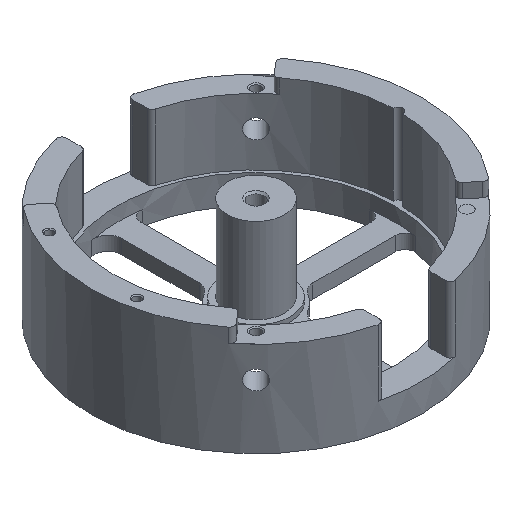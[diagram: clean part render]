
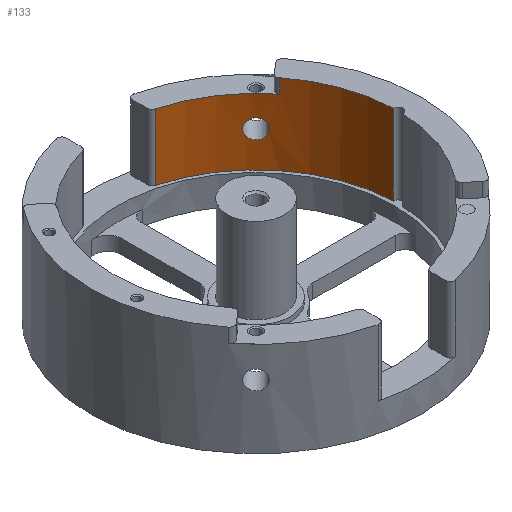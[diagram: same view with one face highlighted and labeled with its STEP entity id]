
A CAD part, isometric view. The second image highlights one B-rep face of the part: STEP entity #133.
In plain terms, the highlighted cylindrical face has radius 30 mm (diameter 60 mm), a partial arc.
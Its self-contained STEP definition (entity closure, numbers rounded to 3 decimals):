
#133=ADVANCED_FACE('',(#599,#600),#225,.F.);
#225=CYLINDRICAL_SURFACE('',#1678,30.);
#278=LINE('',#2489,#376);
#279=LINE('',#2493,#377);
#280=LINE('',#2497,#378);
#376=VECTOR('',#1896,1.);
#377=VECTOR('',#1899,1.);
#378=VECTOR('',#1902,1.);
#474=CIRCLE('',#1675,30.);
#475=CIRCLE('',#1676,30.);
#476=CIRCLE('',#1677,30.);
#599=FACE_BOUND('',#681,.T.);
#600=FACE_BOUND('',#682,.T.);
#681=EDGE_LOOP('',(#813));
#682=EDGE_LOOP('',(#814,#815,#816,#817,#818,#819));
#813=ORIENTED_EDGE('',*,*,#1439,.T.);
#814=ORIENTED_EDGE('',*,*,#1440,.T.);
#815=ORIENTED_EDGE('',*,*,#1441,.T.);
#816=ORIENTED_EDGE('',*,*,#1442,.F.);
#817=ORIENTED_EDGE('',*,*,#1443,.T.);
#818=ORIENTED_EDGE('',*,*,#1444,.F.);
#819=ORIENTED_EDGE('',*,*,#1445,.T.);
#1271=VERTEX_POINT('',#2485);
#1272=VERTEX_POINT('',#2487);
#1273=VERTEX_POINT('',#2488);
#1274=VERTEX_POINT('',#2490);
#1275=VERTEX_POINT('',#2492);
#1276=VERTEX_POINT('',#2494);
#1277=VERTEX_POINT('',#2496);
#1439=EDGE_CURVE('',#1271,#1271,#1668,.T.);
#1440=EDGE_CURVE('',#1272,#1273,#474,.T.);
#1441=EDGE_CURVE('',#1273,#1274,#278,.T.);
#1442=EDGE_CURVE('',#1275,#1274,#475,.T.);
#1443=EDGE_CURVE('',#1275,#1276,#279,.T.);
#1444=EDGE_CURVE('',#1277,#1276,#476,.T.);
#1445=EDGE_CURVE('',#1277,#1272,#280,.T.);
#1668=B_SPLINE_CURVE_WITH_KNOTS('',3,(#2427,#2428,#2429,#2430,#2431,#2432,
#2433,#2434,#2435,#2436,#2437,#2438,#2439,#2440,#2441,#2442,#2443,#2444,
#2445,#2446,#2447,#2448,#2449,#2450,#2451,#2452,#2453,#2454,#2455,#2456,
#2457,#2458,#2459,#2460,#2461,#2462,#2463,#2464,#2465,#2466,#2467,#2468,
#2469,#2470,#2471,#2472,#2473,#2474,#2475,#2476,#2477,#2478,#2479,#2480,
#2481,#2482,#2483,#2484),.UNSPECIFIED.,.T.,.F.,(1,3,3,3,3,3,3,3,3,3,3,3,
3,3,3,3,3,3,3,3,3,1),(-0.034,0.,0.054,0.107,
0.161,0.215,0.268,0.322,
0.376,0.429,0.483,0.537,
0.59,0.644,0.698,0.751,
0.805,0.858,0.912,0.966,
1.,1.054),.UNSPECIFIED.);
#1675=AXIS2_PLACEMENT_3D('',#2486,#1894,#1895);
#1676=AXIS2_PLACEMENT_3D('',#2491,#1897,#1898);
#1677=AXIS2_PLACEMENT_3D('',#2495,#1900,#1901);
#1678=AXIS2_PLACEMENT_3D('',#2498,#1903,#1904);
#1894=DIRECTION('',(0.,0.,-1.));
#1895=DIRECTION('',(0.,1.,0.));
#1896=DIRECTION('',(0.,0.,1.));
#1897=DIRECTION('',(0.,0.,-1.));
#1898=DIRECTION('',(-1.,0.,0.));
#1899=DIRECTION('',(0.,0.,-1.));
#1900=DIRECTION('',(0.,0.,-1.));
#1901=DIRECTION('',(0.,1.,0.));
#1902=DIRECTION('',(0.,0.,-1.));
#1903=DIRECTION('',(0.,0.,1.));
#1904=DIRECTION('',(-1.,0.,0.));
#2427=CARTESIAN_POINT('',(22.58,19.752,0.));
#2428=CARTESIAN_POINT('',(22.58,19.752,-0.224));
#2429=CARTESIAN_POINT('',(22.555,19.781,-0.45));
#2430=CARTESIAN_POINT('',(22.506,19.836,-0.661));
#2431=CARTESIAN_POINT('',(22.457,19.892,-0.872));
#2432=CARTESIAN_POINT('',(22.383,19.975,-1.073));
#2433=CARTESIAN_POINT('',(22.29,20.079,-1.248));
#2434=CARTESIAN_POINT('',(22.196,20.183,-1.423));
#2435=CARTESIAN_POINT('',(22.08,20.31,-1.576));
#2436=CARTESIAN_POINT('',(21.951,20.449,-1.695));
#2437=CARTESIAN_POINT('',(21.821,20.588,-1.814));
#2438=CARTESIAN_POINT('',(21.675,20.742,-1.901));
#2439=CARTESIAN_POINT('',(21.523,20.899,-1.951));
#2440=CARTESIAN_POINT('',(21.371,21.056,-2.));
#2441=CARTESIAN_POINT('',(21.209,21.219,-2.012));
#2442=CARTESIAN_POINT('',(21.05,21.375,-1.987));
#2443=CARTESIAN_POINT('',(20.892,21.531,-1.961));
#2444=CARTESIAN_POINT('',(20.733,21.683,-1.897));
#2445=CARTESIAN_POINT('',(20.587,21.821,-1.8));
#2446=CARTESIAN_POINT('',(20.441,21.959,-1.702));
#2447=CARTESIAN_POINT('',(20.303,22.086,-1.568));
#2448=CARTESIAN_POINT('',(20.187,22.192,-1.41));
#2449=CARTESIAN_POINT('',(20.07,22.299,-1.251));
#2450=CARTESIAN_POINT('',(19.971,22.387,-1.063));
#2451=CARTESIAN_POINT('',(19.898,22.451,-0.861));
#2452=CARTESIAN_POINT('',(19.826,22.515,-0.659));
#2453=CARTESIAN_POINT('',(19.779,22.557,-0.437));
#2454=CARTESIAN_POINT('',(19.76,22.573,-0.214));
#2455=CARTESIAN_POINT('',(19.742,22.588,0.008));
#2456=CARTESIAN_POINT('',(19.753,22.579,0.237));
#2457=CARTESIAN_POINT('',(19.791,22.546,0.455));
#2458=CARTESIAN_POINT('',(19.83,22.512,0.673));
#2459=CARTESIAN_POINT('',(19.897,22.453,0.884));
#2460=CARTESIAN_POINT('',(19.986,22.373,1.073));
#2461=CARTESIAN_POINT('',(20.076,22.293,1.261));
#2462=CARTESIAN_POINT('',(20.19,22.19,1.432));
#2463=CARTESIAN_POINT('',(20.319,22.071,1.57));
#2464=CARTESIAN_POINT('',(20.449,21.952,1.709));
#2465=CARTESIAN_POINT('',(20.597,21.813,1.819));
#2466=CARTESIAN_POINT('',(20.75,21.667,1.892));
#2467=CARTESIAN_POINT('',(20.903,21.52,1.965));
#2468=CARTESIAN_POINT('',(21.065,21.361,2.002));
#2469=CARTESIAN_POINT('',(21.223,21.203,2.));
#2470=CARTESIAN_POINT('',(21.381,21.045,1.998));
#2471=CARTESIAN_POINT('',(21.539,20.883,1.958));
#2472=CARTESIAN_POINT('',(21.685,20.731,1.883));
#2473=CARTESIAN_POINT('',(21.83,20.579,1.807));
#2474=CARTESIAN_POINT('',(21.967,20.432,1.695));
#2475=CARTESIAN_POINT('',(22.084,20.305,1.554));
#2476=CARTESIAN_POINT('',(22.202,20.176,1.414));
#2477=CARTESIAN_POINT('',(22.304,20.063,1.241));
#2478=CARTESIAN_POINT('',(22.383,19.976,1.05));
#2479=CARTESIAN_POINT('',(22.461,19.888,0.86));
#2480=CARTESIAN_POINT('',(22.518,19.823,0.646));
#2481=CARTESIAN_POINT('',(22.55,19.787,0.427));
#2482=CARTESIAN_POINT('',(22.57,19.764,0.287));
#2483=CARTESIAN_POINT('',(22.58,19.752,0.143));
#2484=CARTESIAN_POINT('',(22.58,19.752,0.));
#2485=CARTESIAN_POINT('',(22.58,19.752,0.));
#2486=CARTESIAN_POINT('',(0.,0.,-7.5));
#2487=CARTESIAN_POINT('',(7.742,28.984,-7.5));
#2488=CARTESIAN_POINT('',(29.983,1.,-7.5));
#2489=CARTESIAN_POINT('',(29.983,1.,9.5));
#2490=CARTESIAN_POINT('',(29.983,1.,9.5));
#2491=CARTESIAN_POINT('',(0.,0.,9.5));
#2492=CARTESIAN_POINT('',(23.591,18.532,9.5));
#2493=CARTESIAN_POINT('',(23.591,18.532,-6.5));
#2494=CARTESIAN_POINT('',(23.591,18.532,6.5));
#2495=CARTESIAN_POINT('',(0.,0.,6.5));
#2496=CARTESIAN_POINT('',(7.742,28.984,6.5));
#2497=CARTESIAN_POINT('',(7.742,28.984,-6.5));
#2498=CARTESIAN_POINT('',(0.,0.,-6.5));
